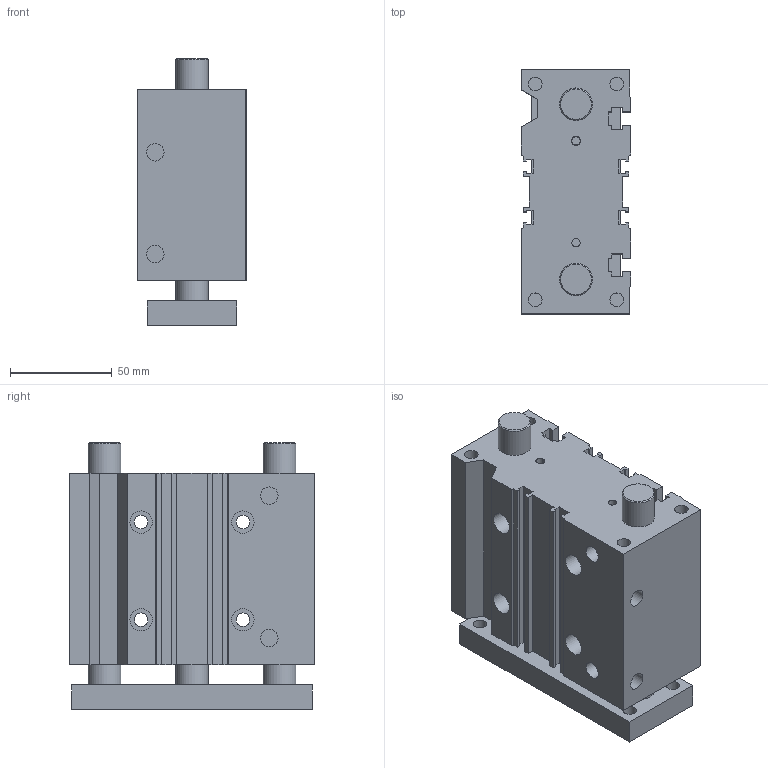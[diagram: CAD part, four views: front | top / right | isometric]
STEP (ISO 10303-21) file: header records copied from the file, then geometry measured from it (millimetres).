
FILE_DESCRIPTION((''),'2;1');
FILE_NAME('I:\Area Tecnica\Disegni\VARIE-3D\Componenti\6100\6100 Ø20-63\6100_##_###_#\6100400050C.stp','2012-01-11T09:03:50',('airolcr1'),(''),'Autodesk Inventor 2012','Autodesk Inventor 2012','');
FILE_SCHEMA(('AUTOMOTIVE_DESIGN { 1 0 10303 214 1 1 1 1 }'));
Length unit declared in the file: millimetre
Products named in the file (3): 6100400050C; CUCORPO Ø40 C50 C; CUPIASTRA Ø40 C50 C
Assembly tree (2 placements, depth 2):
  6100400050C
    CUCORPO Ø40 C50 C
    CUPIASTRA Ø40 C50 C
Bounding box: 54 x 120 x 131 mm (x, y, z)
Volume: 617089.1 mm3; surface area: 104703.1 mm2
Topology: 2 solids, 2 shells, 166 faces, 417 edges, 277 vertices
Faces by surface type: plane 126, cylinder 38, cone 2
Full cylindrical faces by diameter (mm): 4 x6, 6.647 x8, 6.65 x4, 8.566 x4, 11 x4, 16 x6
Entity records: 5013 total; most frequent: CARTESIAN_POINT 815, DIRECTION 798, ORIENTED_EDGE 750, EDGE_CURVE 375, VECTOR 294, LINE 294, VERTEX_POINT 269, AXIS2_PLACEMENT_3D 252
